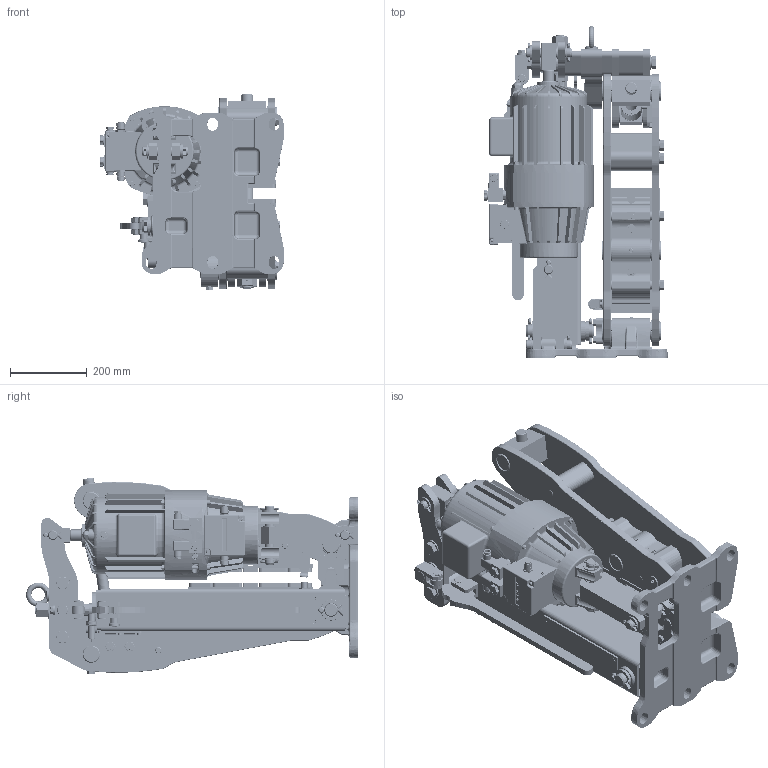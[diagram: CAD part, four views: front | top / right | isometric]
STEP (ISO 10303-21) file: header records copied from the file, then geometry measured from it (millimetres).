
FILE_DESCRIPTION((''),'2;1');
FILE_NAME('DX_280_FRAME_TH_475_476_ASM','2024-02-15T16:25:42',('FRMA'),(''),'CREO PARAMETRIC BY PTC INC, 2022364','CREO PARAMETRIC BY PTC INC, 2022364','');
FILE_SCHEMA(('CONFIG_CONTROL_DESIGN','SHAPE_APPEARANCE_LAYERS_GROUPS'));
Products named in the file (20): 9474_420_003_000000_AF0_1_1_1_1; 9474_420_003_000000_AF0_1_1_2_1; 9474_420_003_000000_AF0_1_1_3_1; 9474_420_003_000000_AF0_1_1_4_1; 9474_420_003_000000_AF0_1_1_5_1; 9474_420_003_000000_AF0_1_1_6_1; 9474_420_003_000000_AF0_1_1_7_1; DX_280_FRAME_ASM; 2758_250_002_000000_1_1; 2758_250_002_000000_1_2; 2758_250_002_000000_1_3; 2758_250_002_000000_1_4; 2758_250_002_000000_1_5; 2758_250_002_000000_1_ASM; BRACKET_TH555_ASM; TH_475_BODY_1; TH_475_STRAP_1; TH475_COMPLETE_ASM_1_ASM; ASM0002_ASM; DX_280_FRAME_TH_475_476_ASM
Assembly tree (19 placements, depth 4):
  DX_280_FRAME_TH_475_476_ASM
    DX_280_FRAME_ASM
      9474_420_003_000000_AF0_1_1_1_1
      9474_420_003_000000_AF0_1_1_2_1
      9474_420_003_000000_AF0_1_1_3_1
      9474_420_003_000000_AF0_1_1_4_1
      9474_420_003_000000_AF0_1_1_5_1
      9474_420_003_000000_AF0_1_1_6_1
      9474_420_003_000000_AF0_1_1_7_1
    BRACKET_TH555_ASM
      2758_250_002_000000_1_ASM
        2758_250_002_000000_1_1
        2758_250_002_000000_1_2
        2758_250_002_000000_1_3
        2758_250_002_000000_1_4
        2758_250_002_000000_1_5
    ASM0002_ASM
      TH475_COMPLETE_ASM_1_ASM
        TH_475_BODY_1
        TH_475_STRAP_1
Bounding box: 477.7 x 865 x 512.48 mm (x, y, z)
Volume: 57701357.6 mm3; surface area: 5488728.2 mm2
Topology: 14 solids, 247 shells, 11650 faces, 31283 edges, 20346 vertices
Faces by surface type: plane 5667, cylinder 3246, cone 1542, torus 862, bspline 209, sphere 64, extrusion 60
Entity records: 555546 total; most frequent: CARTESIAN_POINT 118750, ORIENTED_EDGE 61970, DIRECTION 60151, PRESENTATION_STYLE_ASSIGNMENT 38342, STYLED_ITEM 31266, CURVE_STYLE 31181, EDGE_CURVE 31121, AXIS2_PLACEMENT_3D 22556
